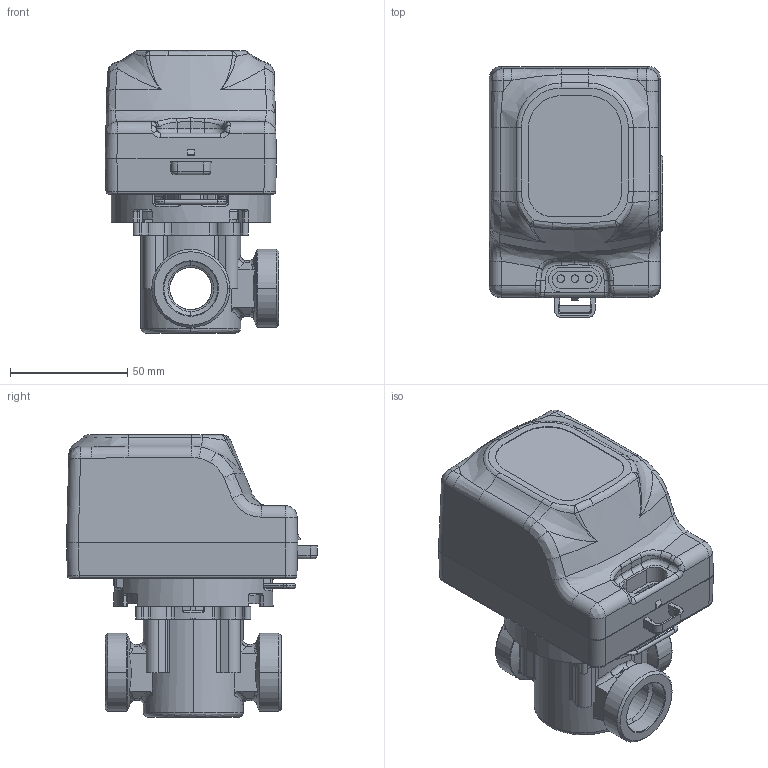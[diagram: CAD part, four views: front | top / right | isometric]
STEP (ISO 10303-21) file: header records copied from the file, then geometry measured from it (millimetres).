
FILE_DESCRIPTION (( 'STEP AP214' ), '1' );
FILE_NAME ('1664710.STEP', '2023-10-12T06:43:55', ( '' ), ( '' ), 'SwSTEP 2.0', 'SolidWorks 2022', '' );
FILE_SCHEMA (( 'AUTOMOTIVE_DESIGN' ));
Length unit declared in the file: millimetre
Products named in the file (17): 709 000 0022 _W_X_FCplast-LiKo Schraube 3x12 T10_3; 1664710; 709 000 0022 _W_X_FCplast-LiKo Schraube 3x12 T10_6; 05 01 001164_Codierclip gr_X_FCn AZV; 709 000 0022 _W_X_FCplast-LiKo Schraube 3x12 T10_2; 05 01 001165_Stellungsanzeiger AZV; MUSS NOCH ANGELEGT WERDEN_O-Ring _X_D834x2 EPDM perox.; 05 01 001160_Aufnahmesockel _X_D838 AZV; 05 01 001145_G3_4-AG 3-Wege Winkel; 900000 4000_Sicherungsscheibe _X_F84 verz. BN833_2; 709 000 0022 _W_X_FCplast-LiKo Schraube 3x12 T10_4; 05 01 001170_Geh_X_E4use-OT Antrieb AZV; 05 01 001168_Federklammer; 05 01 001171_Geh_X_E4use-UT Antrieb AZV; 709 000 0022 _W_X_FCplast-LiKo Schraube 3x12 T10; Elektroantrieb_AZV_Baugruppe; 709 000 0022 _W_X_FCplast-LiKo Schraube 3x12 T10_5
Assembly tree (17 placements, depth 3):
  1664710
    05 01 001168_Federklammer
    Elektroantrieb_AZV_Baugruppe
      709 000 0022 _W_X_FCplast-LiKo Schraube 3x12 T10
      709 000 0022 _W_X_FCplast-LiKo Schraube 3x12 T10_2
      709 000 0022 _W_X_FCplast-LiKo Schraube 3x12 T10_3
      709 000 0022 _W_X_FCplast-LiKo Schraube 3x12 T10_4
      709 000 0022 _W_X_FCplast-LiKo Schraube 3x12 T10_5
      709 000 0022 _W_X_FCplast-LiKo Schraube 3x12 T10_6
      900000 4000_Sicherungsscheibe _X_F84 verz. BN833_2
      05 01 001170_Geh_X_E4use-OT Antrieb AZV
      05 01 001171_Geh_X_E4use-UT Antrieb AZV
    MUSS NOCH ANGELEGT WERDEN_O-Ring _X_D834x2 EPDM perox.
    05 01 001164_Codierclip gr_X_FCn AZV  x2
    05 01 001165_Stellungsanzeiger AZV
    05 01 001145_G3_4-AG 3-Wege Winkel
    05 01 001160_Aufnahmesockel _X_D838 AZV
Bounding box: 74 x 106.91 x 120.25 mm (x, y, z)
Volume: 145082.5 mm3; surface area: 128319.4 mm2
Topology: 16 solids, 16 shells, 3040 faces, 8000 edges, 4982 vertices
Faces by surface type: plane 1080, cylinder 1021, bspline 606, cone 309, torus 24
Entity records: 172014 total; most frequent: CARTESIAN_POINT 73049, ORIENTED_EDGE 15066, DIRECTION 12314, EDGE_CURVE 7533, VERTEX_POINT 4742, AXIS2_PLACEMENT_3D 4496, VECTOR 3322, LINE 3322
